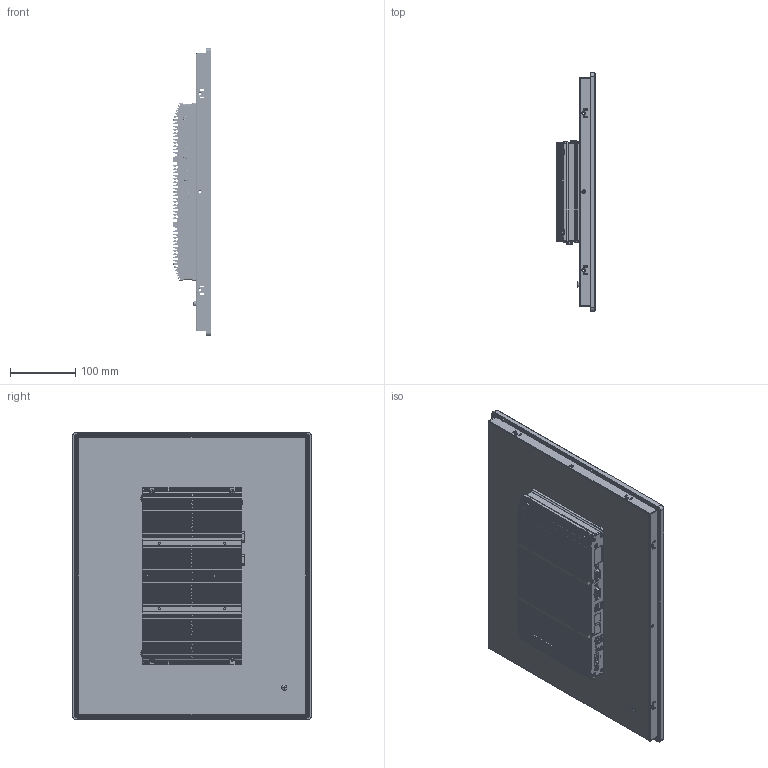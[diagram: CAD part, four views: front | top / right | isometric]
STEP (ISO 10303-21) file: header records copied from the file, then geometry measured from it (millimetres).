
FILE_DESCRIPTION((''),'2;1');
FILE_NAME('FPM-1900-20250228','2025-08-02T23:04:24',('anthony'),(''),'CREO PARAMETRIC BY PTC INC, 2024063','CREO PARAMETRIC BY PTC INC, 2024063','');
FILE_SCHEMA(('CONFIG_CONTROL_DESIGN','SHAPE_APPEARANCE_LAYERS_GROUPS'));
Products named in the file (1): FPM-1900-20250228
Bounding box: 59.58 x 363.95 x 439.95 mm (x, y, z)
Volume: 1424982.6 mm3; surface area: 1434751.9 mm2
Topology: 24 solids, 39 shells, 6691 faces, 21252 edges, 14702 vertices
Faces by surface type: plane 3651, cylinder 2654, cone 212, torus 88, bspline 70, sphere 12, revolution 4
Entity records: 294072 total; most frequent: CARTESIAN_POINT 56028, ORIENTED_EDGE 42136, DIRECTION 38846, EDGE_CURVE 21211, VERTEX_POINT 14703, PRESENTATION_STYLE_ASSIGNMENT 13884, STYLED_ITEM 13517, AXIS2_PLACEMENT_3D 13321
